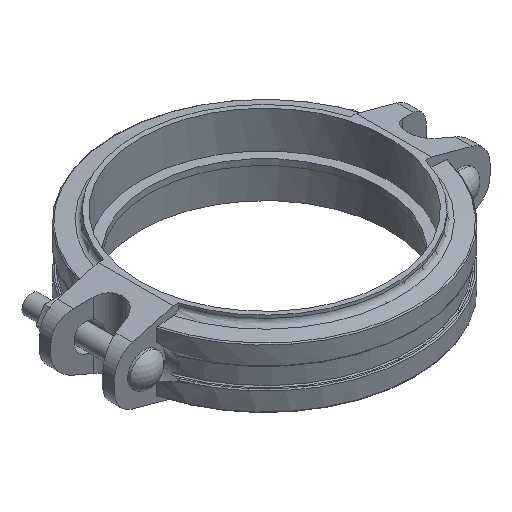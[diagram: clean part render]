
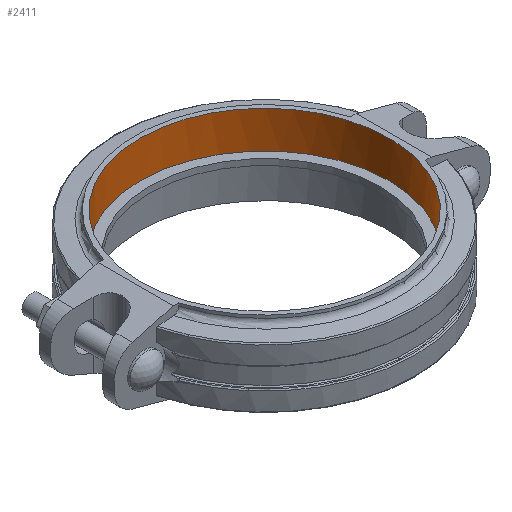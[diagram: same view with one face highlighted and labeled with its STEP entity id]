
A CAD part, isometric view. The second image highlights one B-rep face of the part: STEP entity #2411.
In plain terms, the highlighted cylindrical face has radius 84.138 mm (diameter 168.275 mm), a full revolution.
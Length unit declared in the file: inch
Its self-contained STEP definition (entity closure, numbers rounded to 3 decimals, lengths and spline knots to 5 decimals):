
#224=FACE_OUTER_BOUND('',#347,.T.);
#347=EDGE_LOOP('',(#1538,#1539,#1540,#1541,#1542,#1543));
#478=LINE('',#3505,#657);
#657=VECTOR('',#2824,3.3125);
#839=CIRCLE('',#2556,3.3125);
#840=CIRCLE('',#2557,3.3125);
#841=CIRCLE('',#2559,3.3125);
#842=CIRCLE('',#2560,3.3125);
#933=VERTEX_POINT('',#3499);
#934=VERTEX_POINT('',#3500);
#935=VERTEX_POINT('',#3504);
#936=VERTEX_POINT('',#3506);
#1176=EDGE_CURVE('',#933,#934,#839,.T.);
#1177=EDGE_CURVE('',#934,#933,#840,.T.);
#1178=EDGE_CURVE('',#934,#935,#478,.T.);
#1179=EDGE_CURVE('',#936,#935,#841,.T.);
#1180=EDGE_CURVE('',#935,#936,#842,.T.);
#1538=ORIENTED_EDGE('',*,*,#1176,.T.);
#1539=ORIENTED_EDGE('',*,*,#1178,.T.);
#1540=ORIENTED_EDGE('',*,*,#1179,.F.);
#1541=ORIENTED_EDGE('',*,*,#1180,.F.);
#1542=ORIENTED_EDGE('',*,*,#1178,.F.);
#1543=ORIENTED_EDGE('',*,*,#1177,.T.);
#2243=CYLINDRICAL_SURFACE('',#2558,3.3125);
#2411=ADVANCED_FACE('',(#224),#2243,.F.);
#2556=AXIS2_PLACEMENT_3D('',#3501,#2818,#2819);
#2557=AXIS2_PLACEMENT_3D('',#3502,#2820,#2821);
#2558=AXIS2_PLACEMENT_3D('',#3503,#2822,#2823);
#2559=AXIS2_PLACEMENT_3D('',#3507,#2825,#2826);
#2560=AXIS2_PLACEMENT_3D('',#3508,#2827,#2828);
#2818=DIRECTION('center_axis',(0.,0.,-1.));
#2819=DIRECTION('ref_axis',(0.,-1.,0.));
#2820=DIRECTION('center_axis',(0.,0.,-1.));
#2821=DIRECTION('ref_axis',(0.,-1.,0.));
#2822=DIRECTION('center_axis',(0.,0.,-1.));
#2823=DIRECTION('ref_axis',(0.,-1.,0.));
#2824=DIRECTION('',(0.,0.,1.));
#2825=DIRECTION('center_axis',(0.,0.,-1.));
#2826=DIRECTION('ref_axis',(-1.,0.,0.));
#2827=DIRECTION('center_axis',(0.,0.,-1.));
#2828=DIRECTION('ref_axis',(-1.,0.,0.));
#3499=CARTESIAN_POINT('',(-3.3125,0.,0.08));
#3500=CARTESIAN_POINT('',(0.,3.3125,0.08));
#3501=CARTESIAN_POINT('Origin',(0.,0.,0.08));
#3502=CARTESIAN_POINT('Origin',(0.,0.,0.08));
#3503=CARTESIAN_POINT('Origin',(0.,0.,0.));
#3504=CARTESIAN_POINT('',(0.,3.3125,1.065));
#3505=CARTESIAN_POINT('',(0.,3.3125,0.));
#3506=CARTESIAN_POINT('',(3.15795,1.,1.065));
#3507=CARTESIAN_POINT('Origin',(0.,0.,1.065));
#3508=CARTESIAN_POINT('Origin',(0.,0.,1.065));
